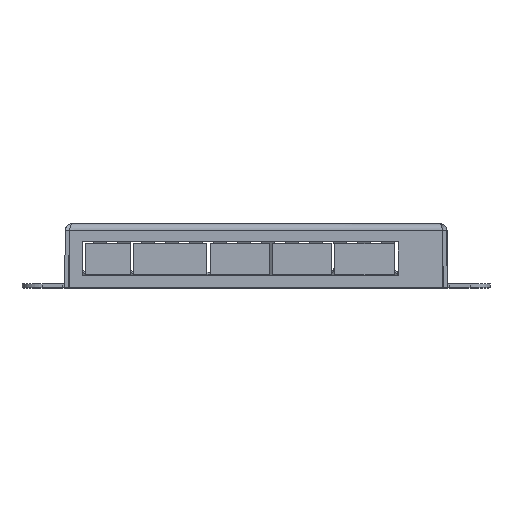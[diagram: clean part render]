
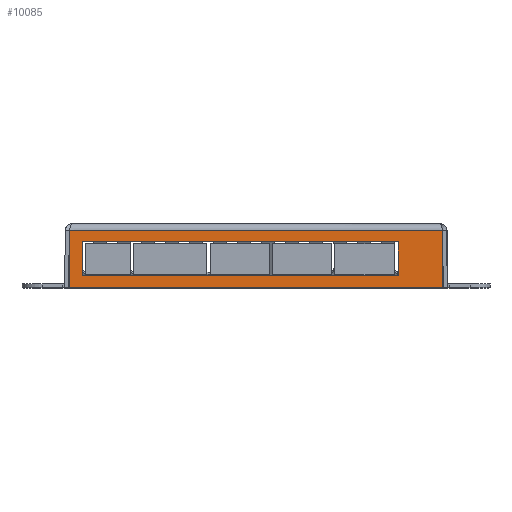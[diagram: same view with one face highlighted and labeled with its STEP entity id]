
A CAD part, top view. The second image highlights one B-rep face of the part: STEP entity #10085.
In plain terms, the highlighted planar face has unit normal (0, 0, 1).
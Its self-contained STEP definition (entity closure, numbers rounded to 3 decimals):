
#434 = CARTESIAN_POINT ( 'NONE',  ( 35.5, -4.5, 32.5 ) ) ;
#765 = VECTOR ( 'NONE', #1355, 1000. ) ;
#787 = FACE_BOUND ( 'NONE', #9804, .T. ) ;
#860 = VERTEX_POINT ( 'NONE', #4813 ) ;
#913 = EDGE_LOOP ( 'NONE', ( #6609, #3825, #6407, #1269 ) ) ;
#1009 = VECTOR ( 'NONE', #1515, 1000. ) ;
#1114 = EDGE_CURVE ( 'NONE', #1543, #5483, #9476, .T. ) ;
#1186 = CARTESIAN_POINT ( 'NONE',  ( 46.65, -16., 32.5 ) ) ;
#1202 = ORIENTED_EDGE ( 'NONE', *, *, #7719, .F. ) ;
#1261 = LINE ( 'NONE', #7642, #9225 ) ;
#1269 = ORIENTED_EDGE ( 'NONE', *, *, #5280, .T. ) ;
#1355 = DIRECTION ( 'NONE',  ( 0., -1., 0. ) ) ;
#1412 = CARTESIAN_POINT ( 'NONE',  ( -43.5, -4.5, 32.5 ) ) ;
#1515 = DIRECTION ( 'NONE',  ( 0., -1., 0. ) ) ;
#1517 = LINE ( 'NONE', #5212, #9733 ) ;
#1543 = VERTEX_POINT ( 'NONE', #6114 ) ;
#1549 = EDGE_CURVE ( 'NONE', #9445, #1543, #1261, .T. ) ;
#1649 = LINE ( 'NONE', #10165, #3566 ) ;
#1797 = LINE ( 'NONE', #5099, #3447 ) ;
#2110 = VERTEX_POINT ( 'NONE', #5229 ) ;
#2351 = VERTEX_POINT ( 'NONE', #434 ) ;
#2582 = LINE ( 'NONE', #10294, #6565 ) ;
#2714 = VERTEX_POINT ( 'NONE', #6365 ) ;
#2847 = DIRECTION ( 'NONE',  ( 0., 1., 0. ) ) ;
#2871 = ORIENTED_EDGE ( 'NONE', *, *, #3095, .F. ) ;
#2989 = DIRECTION ( 'NONE',  ( 0., -1., 0. ) ) ;
#3095 = EDGE_CURVE ( 'NONE', #2351, #4456, #1649, .T. ) ;
#3254 = EDGE_CURVE ( 'NONE', #4456, #2714, #9478, .T. ) ;
#3447 = VECTOR ( 'NONE', #8290, 1000. ) ;
#3566 = VECTOR ( 'NONE', #8486, 1000. ) ;
#3825 = ORIENTED_EDGE ( 'NONE', *, *, #1114, .F. ) ;
#4363 = CARTESIAN_POINT ( 'NONE',  ( 46.65, -1.737, 32.5 ) ) ;
#4432 = CARTESIAN_POINT ( 'NONE',  ( -46.65, -1.737, 32.5 ) ) ;
#4456 = VERTEX_POINT ( 'NONE', #1412 ) ;
#4813 = CARTESIAN_POINT ( 'NONE',  ( -46.65, -16., 32.5 ) ) ;
#4878 = DIRECTION ( 'NONE',  ( 1., 0., 0. ) ) ;
#5099 = CARTESIAN_POINT ( 'NONE',  ( 46.75, -16., 32.5 ) ) ;
#5212 = CARTESIAN_POINT ( 'NONE',  ( 35.5, -13., 32.5 ) ) ;
#5229 = CARTESIAN_POINT ( 'NONE',  ( 35.5, -13., 32.5 ) ) ;
#5280 = EDGE_CURVE ( 'NONE', #9445, #860, #2582, .T. ) ;
#5483 = VERTEX_POINT ( 'NONE', #1186 ) ;
#5990 = CARTESIAN_POINT ( 'NONE',  ( 0., 0., 32.5 ) ) ;
#6114 = CARTESIAN_POINT ( 'NONE',  ( 46.65, -1.737, 32.5 ) ) ;
#6365 = CARTESIAN_POINT ( 'NONE',  ( -43.5, -13., 32.5 ) ) ;
#6407 = ORIENTED_EDGE ( 'NONE', *, *, #1549, .F. ) ;
#6565 = VECTOR ( 'NONE', #2989, 1000. ) ;
#6609 = ORIENTED_EDGE ( 'NONE', *, *, #9996, .T. ) ;
#6836 = CARTESIAN_POINT ( 'NONE',  ( -43.5, -13., 32.5 ) ) ;
#6909 = FACE_OUTER_BOUND ( 'NONE', #913, .T. ) ;
#7171 = LINE ( 'NONE', #7227, #9023 ) ;
#7227 = CARTESIAN_POINT ( 'NONE',  ( -43.5, -13., 32.5 ) ) ;
#7257 = ORIENTED_EDGE ( 'NONE', *, *, #3254, .F. ) ;
#7604 = DIRECTION ( 'NONE',  ( 0., 0., -1. ) ) ;
#7609 = DIRECTION ( 'NONE',  ( 1., 0., 0. ) ) ;
#7642 = CARTESIAN_POINT ( 'NONE',  ( 0., -1.737, 32.5 ) ) ;
#7719 = EDGE_CURVE ( 'NONE', #2110, #2351, #1517, .T. ) ;
#8156 = ORIENTED_EDGE ( 'NONE', *, *, #8574, .F. ) ;
#8290 = DIRECTION ( 'NONE',  ( 1., 0., 0. ) ) ;
#8443 = AXIS2_PLACEMENT_3D ( 'NONE', #5990, #7604, #2847 ) ;
#8486 = DIRECTION ( 'NONE',  ( -1., 0., 0. ) ) ;
#8574 = EDGE_CURVE ( 'NONE', #2714, #2110, #7171, .T. ) ;
#9023 = VECTOR ( 'NONE', #4878, 1000. ) ;
#9225 = VECTOR ( 'NONE', #7609, 1000. ) ;
#9445 = VERTEX_POINT ( 'NONE', #4432 ) ;
#9476 = LINE ( 'NONE', #4363, #765 ) ;
#9478 = LINE ( 'NONE', #6836, #1009 ) ;
#9733 = VECTOR ( 'NONE', #9955, 1000. ) ;
#9804 = EDGE_LOOP ( 'NONE', ( #8156, #7257, #2871, #1202 ) ) ;
#9953 = PLANE ( 'NONE',  #8443 ) ;
#9955 = DIRECTION ( 'NONE',  ( 0., 1., 0. ) ) ;
#9996 = EDGE_CURVE ( 'NONE', #860, #5483, #1797, .T. ) ;
#10085 = ADVANCED_FACE ( 'NONE', ( #787, #6909 ), #9953, .F. ) ;
#10165 = CARTESIAN_POINT ( 'NONE',  ( -43.5, -4.5, 32.5 ) ) ;
#10294 = CARTESIAN_POINT ( 'NONE',  ( -46.65, -1.737, 32.5 ) ) ;
